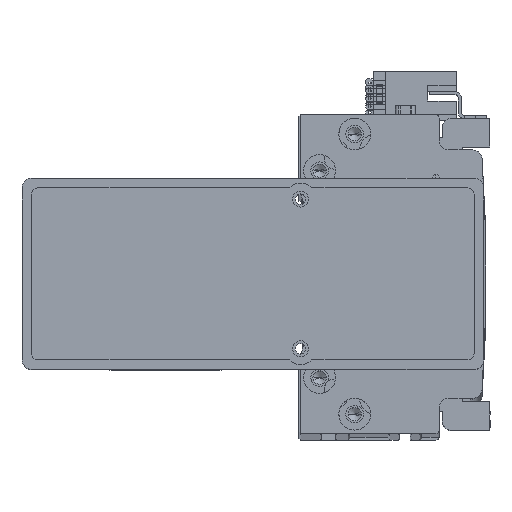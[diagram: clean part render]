
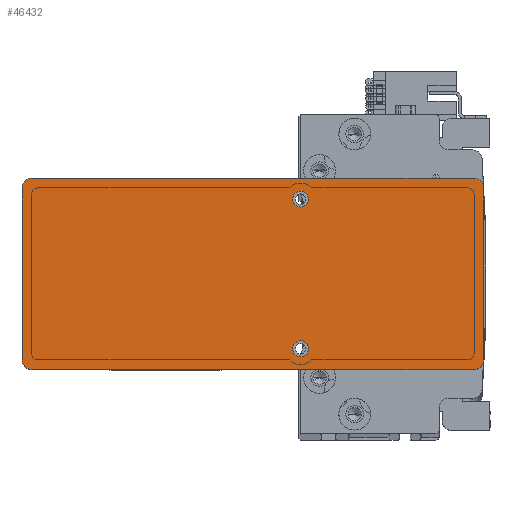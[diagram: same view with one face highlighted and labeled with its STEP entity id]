
A CAD part, top view. The second image highlights one B-rep face of the part: STEP entity #46432.
In plain terms, the highlighted planar face has unit normal (0, 0, 1) as drawn and (0, 0, -1) by its records, which use the part's own axes.
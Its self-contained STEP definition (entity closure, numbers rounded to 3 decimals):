
#16 = CARTESIAN_POINT ( 'NONE',  ( -69.5, -27., 0. ) ) ;
#219 = EDGE_CURVE ( 'NONE', #14673, #35319, #17025, .T. ) ;
#326 = ORIENTED_EDGE ( 'NONE', *, *, #49670, .F. ) ;
#682 = DIRECTION ( 'NONE',  ( 0., 0., -1. ) ) ;
#726 = DIRECTION ( 'NONE',  ( 1., 0., 0. ) ) ;
#788 = AXIS2_PLACEMENT_3D ( 'NONE', #1720, #682, #726 ) ;
#1608 = ORIENTED_EDGE ( 'NONE', *, *, #39784, .T. ) ;
#1720 = CARTESIAN_POINT ( 'NONE',  ( -69.5, 27., 0. ) ) ;
#1929 = EDGE_CURVE ( 'NONE', #49550, #23044, #26919, .T. ) ;
#2080 = DIRECTION ( 'NONE',  ( 0., 0., -1. ) ) ;
#3072 = AXIS2_PLACEMENT_3D ( 'NONE', #48786, #23963, #52897 ) ;
#3155 = CIRCLE ( 'NONE', #46749, 2.5 ) ;
#3239 = PLANE ( 'NONE',  #3072 ) ;
#3331 = VERTEX_POINT ( 'NONE', #41508 ) ;
#3412 = CARTESIAN_POINT ( 'NONE',  ( 15., 23.5, 0. ) ) ;
#4008 = ORIENTED_EDGE ( 'NONE', *, *, #219, .T. ) ;
#4111 = DIRECTION ( 'NONE',  ( 1., 0., 0. ) ) ;
#4144 = CARTESIAN_POINT ( 'NONE',  ( 69.5, -27., 0. ) ) ;
#5001 = FACE_BOUND ( 'NONE', #19381, .T. ) ;
#5074 = EDGE_CURVE ( 'NONE', #20498, #16437, #3155, .T. ) ;
#5181 = ORIENTED_EDGE ( 'NONE', *, *, #37351, .F. ) ;
#5326 = DIRECTION ( 'NONE',  ( 0., 0., -1. ) ) ;
#5393 = ORIENTED_EDGE ( 'NONE', *, *, #1929, .F. ) ;
#5645 = ORIENTED_EDGE ( 'NONE', *, *, #22562, .F. ) ;
#5845 = EDGE_CURVE ( 'NONE', #3331, #47754, #15896, .T. ) ;
#6398 = ORIENTED_EDGE ( 'NONE', *, *, #5845, .F. ) ;
#6916 = CARTESIAN_POINT ( 'NONE',  ( 15., -23.5, 0. ) ) ;
#7582 = DIRECTION ( 'NONE',  ( -1., 0., 0. ) ) ;
#8336 = DIRECTION ( 'NONE',  ( 1., 0., 0. ) ) ;
#10372 = EDGE_CURVE ( 'NONE', #49550, #47754, #32448, .T. ) ;
#11067 = DIRECTION ( 'NONE',  ( -1., 0., 0. ) ) ;
#11648 = AXIS2_PLACEMENT_3D ( 'NONE', #6916, #35862, #11067 ) ;
#12980 = CARTESIAN_POINT ( 'NONE',  ( 12.5, -23.5, 0. ) ) ;
#13278 = CARTESIAN_POINT ( 'NONE',  ( 69.5, 27., 0. ) ) ;
#13615 = ORIENTED_EDGE ( 'NONE', *, *, #46543, .T. ) ;
#14673 = VERTEX_POINT ( 'NONE', #33231 ) ;
#15119 = CARTESIAN_POINT ( 'NONE',  ( -72.5, -27., 0. ) ) ;
#15301 = AXIS2_PLACEMENT_3D ( 'NONE', #13278, #42229, #17426 ) ;
#15896 = LINE ( 'NONE', #19106, #36635 ) ;
#15950 = VECTOR ( 'NONE', #40977, 1000. ) ;
#16437 = VERTEX_POINT ( 'NONE', #36562 ) ;
#17025 = CIRCLE ( 'NONE', #788, 3. ) ;
#17426 = DIRECTION ( 'NONE',  ( 1., 0., 0. ) ) ;
#17885 = CARTESIAN_POINT ( 'NONE',  ( 69.5, 30., 0. ) ) ;
#19106 = CARTESIAN_POINT ( 'NONE',  ( 72.5, -30., 0. ) ) ;
#19307 = EDGE_CURVE ( 'NONE', #21501, #35319, #29556, .T. ) ;
#19381 = EDGE_LOOP ( 'NONE', ( #52181, #326 ) ) ;
#19663 = AXIS2_PLACEMENT_3D ( 'NONE', #16, #28868, #4111 ) ;
#20498 = VERTEX_POINT ( 'NONE', #37232 ) ;
#21501 = VERTEX_POINT ( 'NONE', #17885 ) ;
#22562 = EDGE_CURVE ( 'NONE', #14673, #47812, #40417, .T. ) ;
#23044 = VERTEX_POINT ( 'NONE', #27371 ) ;
#23226 = DIRECTION ( 'NONE',  ( 1., 0., 0. ) ) ;
#23963 = DIRECTION ( 'NONE',  ( 0., 0., 1. ) ) ;
#25367 = CIRCLE ( 'NONE', #29409, 2.5 ) ;
#25641 = VECTOR ( 'NONE', #45055, 1000. ) ;
#25647 = FACE_BOUND ( 'NONE', #52063, .T. ) ;
#26758 = CARTESIAN_POINT ( 'NONE',  ( 15., -23.5, 0. ) ) ;
#26919 = LINE ( 'NONE', #40335, #25641 ) ;
#27371 = CARTESIAN_POINT ( 'NONE',  ( 72.5, 27., 0. ) ) ;
#27798 = ORIENTED_EDGE ( 'NONE', *, *, #10372, .T. ) ;
#28868 = DIRECTION ( 'NONE',  ( 0., 0., -1. ) ) ;
#29409 = AXIS2_PLACEMENT_3D ( 'NONE', #26758, #2080, #30970 ) ;
#29556 = LINE ( 'NONE', #49279, #15950 ) ;
#30092 = CARTESIAN_POINT ( 'NONE',  ( 15., 23.5, 0. ) ) ;
#30970 = DIRECTION ( 'NONE',  ( -1., 0., 0. ) ) ;
#31216 = CARTESIAN_POINT ( 'NONE',  ( 69.5, -30., 0. ) ) ;
#31466 = AXIS2_PLACEMENT_3D ( 'NONE', #4144, #33082, #8336 ) ;
#32334 = DIRECTION ( 'NONE',  ( 0., 0., -1. ) ) ;
#32448 = CIRCLE ( 'NONE', #31466, 3. ) ;
#32539 = CARTESIAN_POINT ( 'NONE',  ( -72.5, -30., 0. ) ) ;
#32745 = ORIENTED_EDGE ( 'NONE', *, *, #19307, .F. ) ;
#33082 = DIRECTION ( 'NONE',  ( 0., 0., -1. ) ) ;
#33231 = CARTESIAN_POINT ( 'NONE',  ( -72.5, 27., 0. ) ) ;
#34279 = DIRECTION ( 'NONE',  ( -1., 0., 0. ) ) ;
#35319 = VERTEX_POINT ( 'NONE', #38827 ) ;
#35862 = DIRECTION ( 'NONE',  ( 0., 0., -1. ) ) ;
#36562 = CARTESIAN_POINT ( 'NONE',  ( 17.5, 23.5, 0. ) ) ;
#36635 = VECTOR ( 'NONE', #23226, 1000. ) ;
#36728 = FACE_OUTER_BOUND ( 'NONE', #39027, .T. ) ;
#37147 = CIRCLE ( 'NONE', #42754, 2.5 ) ;
#37232 = CARTESIAN_POINT ( 'NONE',  ( 12.5, 23.5, 0. ) ) ;
#37351 = EDGE_CURVE ( 'NONE', #46636, #45495, #52451, .T. ) ;
#37389 = CARTESIAN_POINT ( 'NONE',  ( 17.5, -23.5, 0. ) ) ;
#38323 = CIRCLE ( 'NONE', #15301, 3. ) ;
#38827 = CARTESIAN_POINT ( 'NONE',  ( -69.5, 30., 0. ) ) ;
#39027 = EDGE_LOOP ( 'NONE', ( #5393, #27798, #6398, #13615, #5645, #4008, #32745, #1608 ) ) ;
#39784 = EDGE_CURVE ( 'NONE', #21501, #23044, #38323, .T. ) ;
#40335 = CARTESIAN_POINT ( 'NONE',  ( 72.5, -30., 0. ) ) ;
#40417 = LINE ( 'NONE', #32539, #51374 ) ;
#40908 = DIRECTION ( 'NONE',  ( 0., -1., 0. ) ) ;
#40977 = DIRECTION ( 'NONE',  ( -1., 0., 0. ) ) ;
#41508 = CARTESIAN_POINT ( 'NONE',  ( -69.5, -30., 0. ) ) ;
#42229 = DIRECTION ( 'NONE',  ( 0., 0., -1. ) ) ;
#42754 = AXIS2_PLACEMENT_3D ( 'NONE', #3412, #32334, #7582 ) ;
#44121 = EDGE_CURVE ( 'NONE', #45495, #46636, #25367, .T. ) ;
#45055 = DIRECTION ( 'NONE',  ( 0., 1., 0. ) ) ;
#45495 = VERTEX_POINT ( 'NONE', #37389 ) ;
#45785 = CIRCLE ( 'NONE', #19663, 3. ) ;
#46432 = ADVANCED_FACE ( 'NONE', ( #5001, #25647, #36728 ), #3239, .F. ) ;
#46543 = EDGE_CURVE ( 'NONE', #3331, #47812, #45785, .T. ) ;
#46636 = VERTEX_POINT ( 'NONE', #12980 ) ;
#46749 = AXIS2_PLACEMENT_3D ( 'NONE', #30092, #5326, #34279 ) ;
#47579 = ORIENTED_EDGE ( 'NONE', *, *, #44121, .F. ) ;
#47742 = CARTESIAN_POINT ( 'NONE',  ( 72.5, -27., 0. ) ) ;
#47754 = VERTEX_POINT ( 'NONE', #31216 ) ;
#47812 = VERTEX_POINT ( 'NONE', #15119 ) ;
#48786 = CARTESIAN_POINT ( 'NONE',  ( 0., 0., 0. ) ) ;
#49279 = CARTESIAN_POINT ( 'NONE',  ( 72.5, 30., 0. ) ) ;
#49550 = VERTEX_POINT ( 'NONE', #47742 ) ;
#49670 = EDGE_CURVE ( 'NONE', #16437, #20498, #37147, .T. ) ;
#51374 = VECTOR ( 'NONE', #40908, 1000. ) ;
#52063 = EDGE_LOOP ( 'NONE', ( #5181, #47579 ) ) ;
#52181 = ORIENTED_EDGE ( 'NONE', *, *, #5074, .F. ) ;
#52451 = CIRCLE ( 'NONE', #11648, 2.5 ) ;
#52897 = DIRECTION ( 'NONE',  ( 1., 0., 0. ) ) ;
